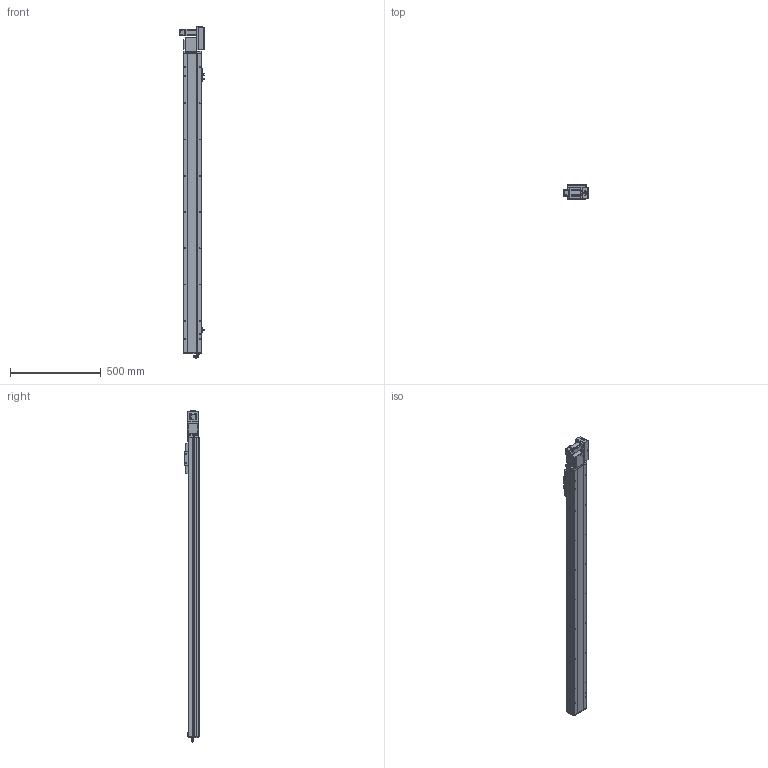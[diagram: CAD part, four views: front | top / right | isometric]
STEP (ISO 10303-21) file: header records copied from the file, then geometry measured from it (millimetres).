
FILE_DESCRIPTION (( 'STEP AP214' ), '1' );
FILE_NAME ('TPE10-L32-1400-R-T10-C4.STEP', '2023-03-13T07:56:37', ( '' ), ( '' ), 'SwSTEP 2.0', 'SolidWorks 2020', '' );
FILE_SCHEMA (( 'AUTOMOTIVE_DESIGN' ));
Length unit declared in the file: millimetre
Products named in the file (15): 葩璃 TPE10-007 々湍釱MZ-169x88^TPE10-L32-R-T10-C4; 葩璃 詩湍75^TPE10-L32-R-T10-C4; 葩璃 TPE10-L-002 耜裔ZTMT-102B-04^TPE10-L32-R-T10-C4; 葩璃 TPT10-L-009 萇儂啣^TPE10-L32-R-T10-C4_100W; 葩璃 PL8-02^TPE10-L32-R-T10-C4; 葩璃 TPF10 詩湍揤啣 TPF10 12^TPE10-L32-R-T10-C4; 葩璃 侂狟100W^TPE10-L32-R-T10-C4; 葩璃 TPF10-L-008 耜醱啣^TPE10-L32-R-T10-C4; TPE10-L32-1400-R-T10-C4; 葩璃 TPE10-L-001 菁釱MZ-102A-01^TPE10-L32-R-T10-C4; 葩璃 pm-t65-672^TPE10-L32-R-T10-C4; hexagon socket head cap screws gb_GB_FASTENER_SCREWS_HSHCS M3X6-N; 葩璃 TPE10 賑雄殤 TPE10^TPE10-L32-R-T10-C4; hexagon head bolts-full thread gb_GB_FASTENER_BOLT_STBAB A M5X16-N; hex nuts, style 1-grades ab gb_GB_FASTENER_NUT_SNAB1 M3-N
Assembly tree (28 placements, depth 2):
  TPE10-L32-1400-R-T10-C4
    葩璃 TPE10-L-001 菁釱MZ-102A-01^TPE10-L32-R-T10-C4
    葩璃 TPE10-L-002 耜裔ZTMT-102B-04^TPE10-L32-R-T10-C4  x2
    葩璃 詩湍75^TPE10-L32-R-T10-C4
    葩璃 TPE10-007 々湍釱MZ-169x88^TPE10-L32-R-T10-C4
    葩璃 TPF10-L-008 耜醱啣^TPE10-L32-R-T10-C4
    葩璃 TPE10 賑雄殤 TPE10^TPE10-L32-R-T10-C4
    葩璃 TPF10 詩湍揤啣 TPF10 12^TPE10-L32-R-T10-C4  x2
    葩璃 TPT10-L-009 萇儂啣^TPE10-L32-R-T10-C4_100W
    葩璃 pm-t65-672^TPE10-L32-R-T10-C4  x3
    葩璃 PL8-02^TPE10-L32-R-T10-C4
    葩璃 侂狟100W^TPE10-L32-R-T10-C4
    hexagon socket head cap screws gb_GB_FASTENER_SCREWS_HSHCS M3X6-N  x6
    hex nuts, style 1-grades ab gb_GB_FASTENER_NUT_SNAB1 M3-N  x6
    hexagon head bolts-full thread gb_GB_FASTENER_BOLT_STBAB A M5X16-N
Bounding box: 134.23 x 78.5 x 1832 mm (x, y, z)
Volume: 5440924.4 mm3; surface area: 1392445.3 mm2
Topology: 36 solids, 36 shells, 1636 faces, 4166 edges, 2624 vertices
Faces by surface type: plane 899, cylinder 497, cone 188, torus 26, bspline 24, sphere 2
Entity records: 38264 total; most frequent: CARTESIAN_POINT 7953, DIRECTION 5996, ORIENTED_EDGE 5776, EDGE_CURVE 2888, AXIS2_PLACEMENT_3D 2117, VERTEX_POINT 1851, VECTOR 1762, LINE 1762
